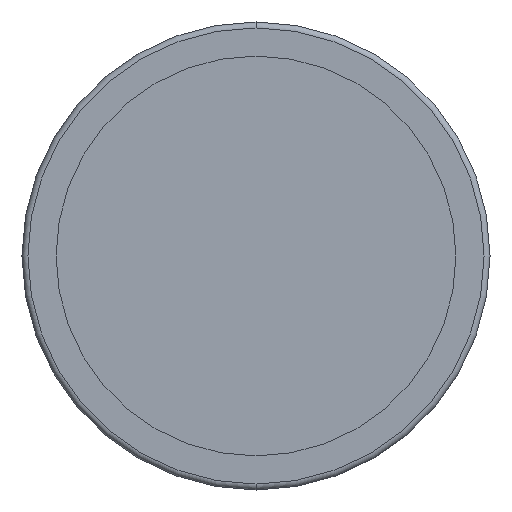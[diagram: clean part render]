
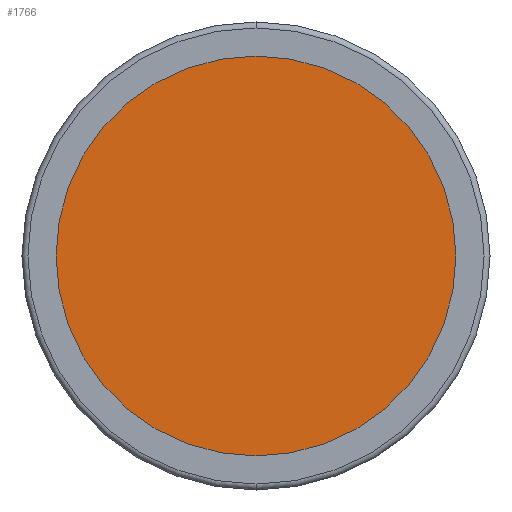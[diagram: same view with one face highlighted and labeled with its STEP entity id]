
A CAD part, front view. The second image highlights one B-rep face of the part: STEP entity #1766.
In plain terms, the highlighted planar face has unit normal (0, -1, 0).
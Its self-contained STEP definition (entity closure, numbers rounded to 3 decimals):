
#109 = VERTEX_POINT ( 'NONE', #1363 ) ;
#130 = CARTESIAN_POINT ( 'NONE',  ( -33.75, -2., 0. ) ) ;
#246 = VERTEX_POINT ( 'NONE', #2737 ) ;
#267 = AXIS2_PLACEMENT_3D ( 'NONE', #2191, #388, #1699 ) ;
#342 = PLANE ( 'NONE',  #3172 ) ;
#388 = DIRECTION ( 'NONE',  ( 0., 1., 0. ) ) ;
#552 = CARTESIAN_POINT ( 'NONE',  ( 0., -2., 0. ) ) ;
#590 = DIRECTION ( 'NONE',  ( 0., 0., -1. ) ) ;
#598 = CIRCLE ( 'NONE', #1644, 33.75 ) ;
#604 = FACE_OUTER_BOUND ( 'NONE', #2243, .T. ) ;
#866 = DIRECTION ( 'NONE',  ( 0., -1., 0. ) ) ;
#881 = CIRCLE ( 'NONE', #267, 33.75 ) ;
#1363 = CARTESIAN_POINT ( 'NONE',  ( 0., -2., 33.75 ) ) ;
#1549 = DIRECTION ( 'NONE',  ( 0., 0., 1. ) ) ;
#1644 = AXIS2_PLACEMENT_3D ( 'NONE', #552, #3048, #1549 ) ;
#1699 = DIRECTION ( 'NONE',  ( 0., 0., 1. ) ) ;
#1766 = ADVANCED_FACE ( 'NONE', ( #604 ), #342, .T. ) ;
#1801 = EDGE_CURVE ( 'NONE', #246, #109, #881, .T. ) ;
#1925 = ORIENTED_EDGE ( 'NONE', *, *, #1801, .F. ) ;
#2191 = CARTESIAN_POINT ( 'NONE',  ( 0., -2., 0. ) ) ;
#2243 = EDGE_LOOP ( 'NONE', ( #2519, #1925 ) ) ;
#2519 = ORIENTED_EDGE ( 'NONE', *, *, #2533, .F. ) ;
#2533 = EDGE_CURVE ( 'NONE', #109, #246, #598, .T. ) ;
#2737 = CARTESIAN_POINT ( 'NONE',  ( 0., -2., -33.75 ) ) ;
#3048 = DIRECTION ( 'NONE',  ( 0., 1., 0. ) ) ;
#3172 = AXIS2_PLACEMENT_3D ( 'NONE', #130, #866, #590 ) ;
